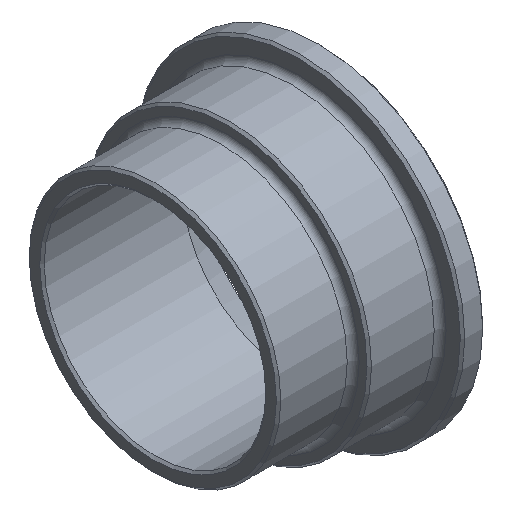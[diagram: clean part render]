
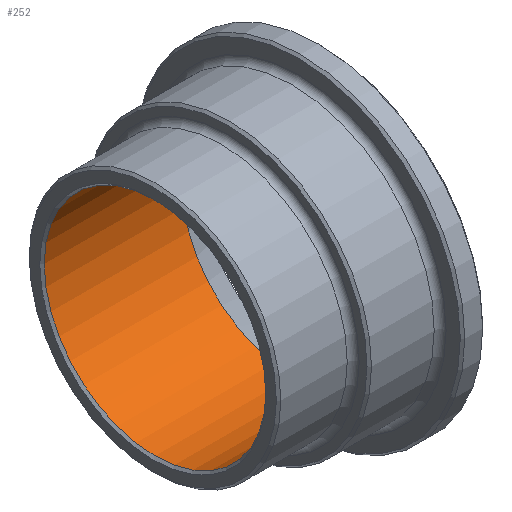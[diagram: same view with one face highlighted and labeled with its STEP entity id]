
A CAD part, isometric view. The second image highlights one B-rep face of the part: STEP entity #252.
In plain terms, the highlighted cylindrical face has radius 14.85 mm (diameter 29.7 mm), a full revolution.
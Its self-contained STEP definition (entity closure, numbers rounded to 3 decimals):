
#32=LINE('',#464,#42);
#42=VECTOR('',#382,14.85);
#51=CYLINDRICAL_SURFACE('',#306,14.85);
#61=FACE_OUTER_BOUND('',#80,.T.);
#80=EDGE_LOOP('',(#205,#206,#207,#208,#209));
#104=CIRCLE('',#302,14.85);
#105=CIRCLE('',#303,14.85);
#107=CIRCLE('',#307,14.85);
#127=VERTEX_POINT('',#453);
#128=VERTEX_POINT('',#455);
#130=VERTEX_POINT('',#462);
#155=EDGE_CURVE('',#127,#128,#104,.T.);
#156=EDGE_CURVE('',#128,#127,#105,.T.);
#158=EDGE_CURVE('',#130,#130,#107,.T.);
#159=EDGE_CURVE('',#130,#128,#32,.T.);
#205=ORIENTED_EDGE('',*,*,#158,.T.);
#206=ORIENTED_EDGE('',*,*,#159,.T.);
#207=ORIENTED_EDGE('',*,*,#155,.F.);
#208=ORIENTED_EDGE('',*,*,#156,.F.);
#209=ORIENTED_EDGE('',*,*,#159,.F.);
#252=ADVANCED_FACE('',(#61),#51,.F.);
#302=AXIS2_PLACEMENT_3D('',#456,#370,#371);
#303=AXIS2_PLACEMENT_3D('',#457,#372,#373);
#306=AXIS2_PLACEMENT_3D('',#461,#378,#379);
#307=AXIS2_PLACEMENT_3D('',#463,#380,#381);
#370=DIRECTION('center_axis',(1.,0.,0.));
#371=DIRECTION('ref_axis',(0.,-1.,0.));
#372=DIRECTION('center_axis',(1.,0.,0.));
#373=DIRECTION('ref_axis',(0.,-1.,0.));
#378=DIRECTION('center_axis',(1.,0.,0.));
#379=DIRECTION('ref_axis',(0.,1.,0.));
#380=DIRECTION('center_axis',(1.,0.,0.));
#381=DIRECTION('ref_axis',(0.,0.,-1.));
#382=DIRECTION('',(-1.,0.,0.));
#453=CARTESIAN_POINT('',(-22.2,14.85,0.));
#455=CARTESIAN_POINT('',(-22.2,-14.85,0.));
#456=CARTESIAN_POINT('Origin',(-22.2,0.,0.));
#457=CARTESIAN_POINT('Origin',(-22.2,0.,0.));
#461=CARTESIAN_POINT('Origin',(-13.112,0.,0.));
#462=CARTESIAN_POINT('',(-3.724,-14.85,0.));
#463=CARTESIAN_POINT('Origin',(-3.724,0.,0.));
#464=CARTESIAN_POINT('',(-13.112,-14.85,0.));
